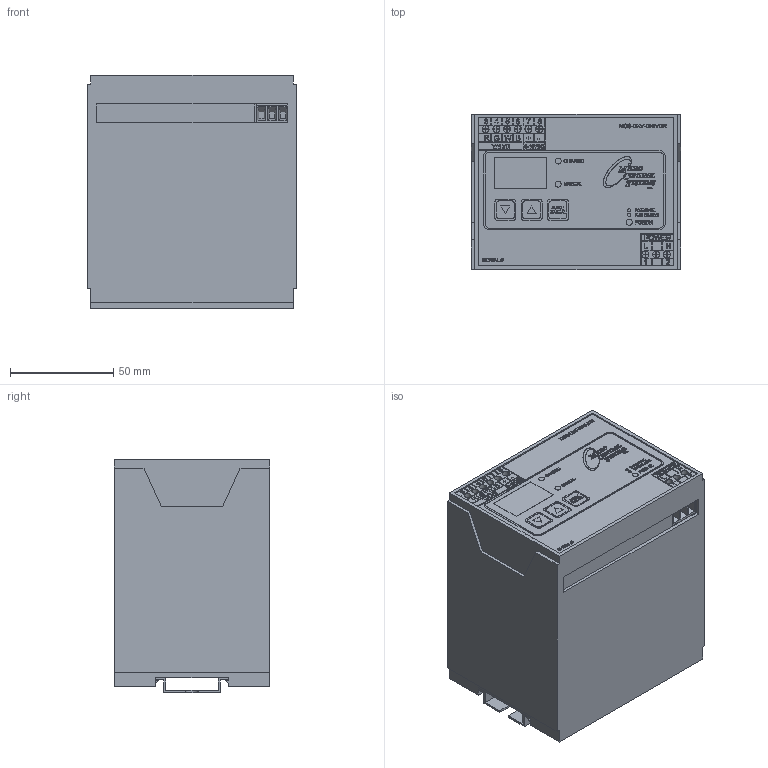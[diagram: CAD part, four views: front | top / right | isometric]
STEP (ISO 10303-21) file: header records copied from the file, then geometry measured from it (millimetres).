
FILE_DESCRIPTION(/* description */ (''),/* implementation_level */ '2;1');
FILE_NAME(/* name */ 'D:\MCS - SERVER ORGANIZATION\Drawings - Mcs Hardware\Boards & Electrical Parts\MCS-EXV-DRIVER\exv driver.stp',/* time_stamp */ '2015-09-23T12:04:34-04:00',/* author */ ('Ian L Mitchell'),/* organization */ (''),/* preprocessor_version */ 'ST-DEVELOPER v15.2',/* originating_system */ 'Autodesk Inventor 2014',/* authorisation */ '');
FILE_SCHEMA (('AUTOMOTIVE_DESIGN { 1 0 10303 214 3 1 1 }'));
Products named in the file (1): exv driver
Bounding box: 101.22 x 75.25 x 112.71 mm (x, y, z)
Volume: 782473.9 mm3; surface area: 91569.2 mm2
Topology: 198 solids, 207 shells, 9442 faces, 27029 edges, 18003 vertices
Faces by surface type: plane 8229, bspline 696, cylinder 508, cone 9
Full cylindrical faces by diameter (mm): 1.141 x2, 1.524 x4, 2.921 x5, 3.365 x6, 3.366 x3
Entity records: 305083 total; most frequent: CARTESIAN_POINT 58136, ORIENTED_EDGE 53976, DIRECTION 46793, EDGE_CURVE 26988, LINE 24499, VECTOR 24499, VERTEX_POINT 17991, AXIS2_PLACEMENT_3D 11147
